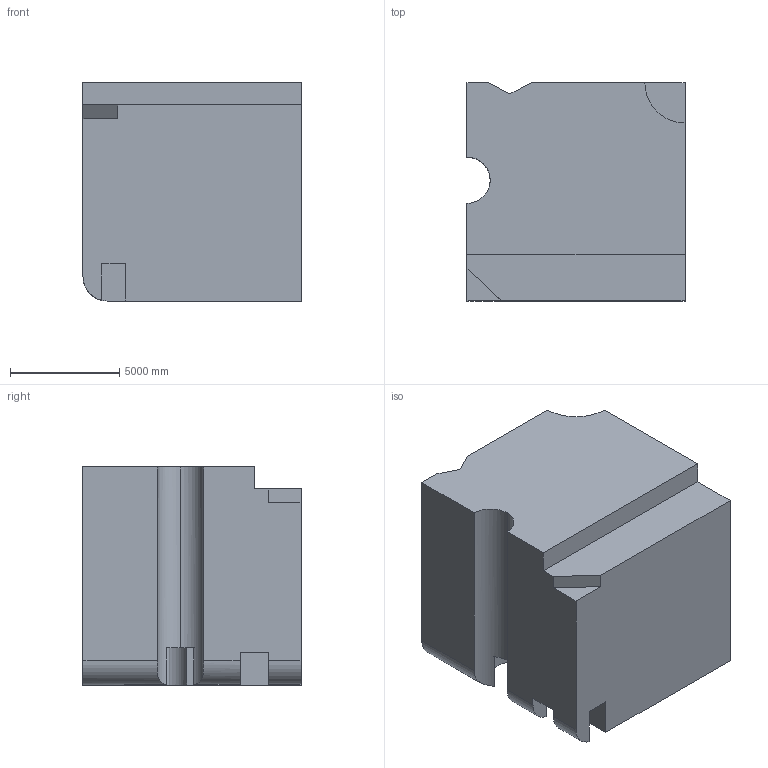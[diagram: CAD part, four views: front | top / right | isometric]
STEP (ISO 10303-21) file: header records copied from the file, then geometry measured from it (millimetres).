
FILE_DESCRIPTION (( 'STEP AP203' ), '1' );
FILE_NAME ('948.STEP', '2022-07-29T14:35:17', ( 'user' ), ( '' ), 'SwSTEP 2.0', 'SolidWorks 2021', '' );
FILE_SCHEMA (( 'CONFIG_CONTROL_DESIGN' ));
Length unit declared in the file: centimetre
Products named in the file (1): 948
Bounding box: 10000 x 10000 x 10000 mm (x, y, z)
Volume: 917882003734.2 mm3; surface area: 660001934.2 mm2
Topology: 1 solids, 1 shells, 40 faces, 108 edges, 72 vertices
Faces by surface type: plane 30, cylinder 10
Entity records: 1451 total; most frequent: CARTESIAN_POINT 349, ORIENTED_EDGE 216, DIRECTION 208, EDGE_CURVE 108, LINE 84, VECTOR 84, VERTEX_POINT 72, AXIS2_PLACEMENT_3D 62
